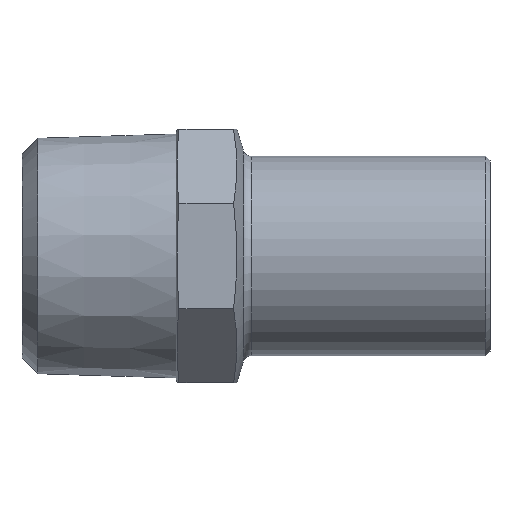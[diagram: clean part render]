
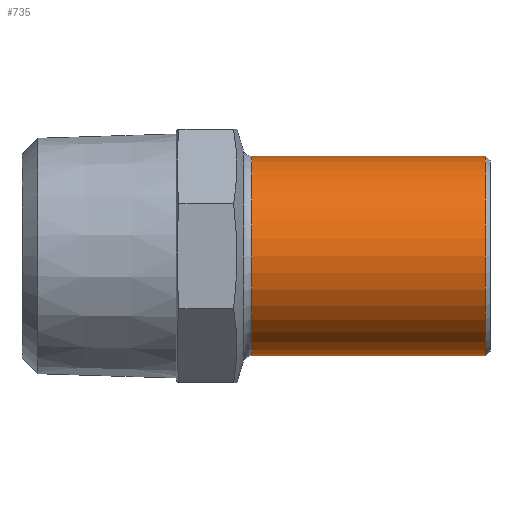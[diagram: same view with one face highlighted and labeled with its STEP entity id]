
A CAD part, left-side view. The second image highlights one B-rep face of the part: STEP entity #735.
In plain terms, the highlighted cylindrical face has radius 11 mm (diameter 22 mm), a partial arc.
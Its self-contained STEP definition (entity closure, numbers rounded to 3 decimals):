
#113 = VERTEX_POINT ( 'NONE', #791 ) ;
#122 = CIRCLE ( 'NONE', #965, 11. ) ;
#123 = VECTOR ( 'NONE', #505, 1000. ) ;
#129 = LINE ( 'NONE', #580, #123 ) ;
#161 = VERTEX_POINT ( 'NONE', #518 ) ;
#185 = EDGE_CURVE ( 'NONE', #113, #221, #295, .T. ) ;
#208 = ORIENTED_EDGE ( 'NONE', *, *, #700, .F. ) ;
#221 = VERTEX_POINT ( 'NONE', #626 ) ;
#254 = AXIS2_PLACEMENT_3D ( 'NONE', #300, #306, #283 ) ;
#260 = CARTESIAN_POINT ( 'NONE',  ( 0., 0.5, 0. ) ) ;
#261 = DIRECTION ( 'NONE',  ( 0., -1., 0. ) ) ;
#277 = DIRECTION ( 'NONE',  ( 0., 0., -1. ) ) ;
#283 = DIRECTION ( 'NONE',  ( 0., 0., -1. ) ) ;
#295 = CIRCLE ( 'NONE', #485, 11. ) ;
#300 = CARTESIAN_POINT ( 'NONE',  ( 0., -17.811, 0. ) ) ;
#303 = ORIENTED_EDGE ( 'NONE', *, *, #1071, .T. ) ;
#306 = DIRECTION ( 'NONE',  ( 0., -1., 0. ) ) ;
#383 = FACE_OUTER_BOUND ( 'NONE', #848, .T. ) ;
#449 = VECTOR ( 'NONE', #1044, 1000. ) ;
#485 = AXIS2_PLACEMENT_3D ( 'NONE', #651, #632, #510 ) ;
#505 = DIRECTION ( 'NONE',  ( 0., -1., 0. ) ) ;
#510 = DIRECTION ( 'NONE',  ( 0., 0., -1. ) ) ;
#518 = CARTESIAN_POINT ( 'NONE',  ( 0., 0.5, 11. ) ) ;
#580 = CARTESIAN_POINT ( 'NONE',  ( 0., -17.811, 11. ) ) ;
#593 = ORIENTED_EDGE ( 'NONE', *, *, #1004, .F. ) ;
#626 = CARTESIAN_POINT ( 'NONE',  ( 0., 26.26, -11. ) ) ;
#632 = DIRECTION ( 'NONE',  ( 0., -1., 0. ) ) ;
#651 = CARTESIAN_POINT ( 'NONE',  ( 0., 26.26, 0. ) ) ;
#700 = EDGE_CURVE ( 'NONE', #161, #899, #122, .T. ) ;
#735 = ADVANCED_FACE ( 'NONE', ( #383 ), #1049, .T. ) ;
#791 = CARTESIAN_POINT ( 'NONE',  ( 0., 26.26, 11. ) ) ;
#821 = LINE ( 'NONE', #1005, #449 ) ;
#848 = EDGE_LOOP ( 'NONE', ( #593, #943, #303, #208 ) ) ;
#899 = VERTEX_POINT ( 'NONE', #1033 ) ;
#943 = ORIENTED_EDGE ( 'NONE', *, *, #185, .T. ) ;
#965 = AXIS2_PLACEMENT_3D ( 'NONE', #260, #261, #277 ) ;
#1004 = EDGE_CURVE ( 'NONE', #113, #161, #129, .T. ) ;
#1005 = CARTESIAN_POINT ( 'NONE',  ( 0., -17.811, -11. ) ) ;
#1033 = CARTESIAN_POINT ( 'NONE',  ( 0., 0.5, -11. ) ) ;
#1044 = DIRECTION ( 'NONE',  ( 0., -1., 0. ) ) ;
#1049 = CYLINDRICAL_SURFACE ( 'NONE', #254, 11. ) ;
#1071 = EDGE_CURVE ( 'NONE', #221, #899, #821, .T. ) ;
